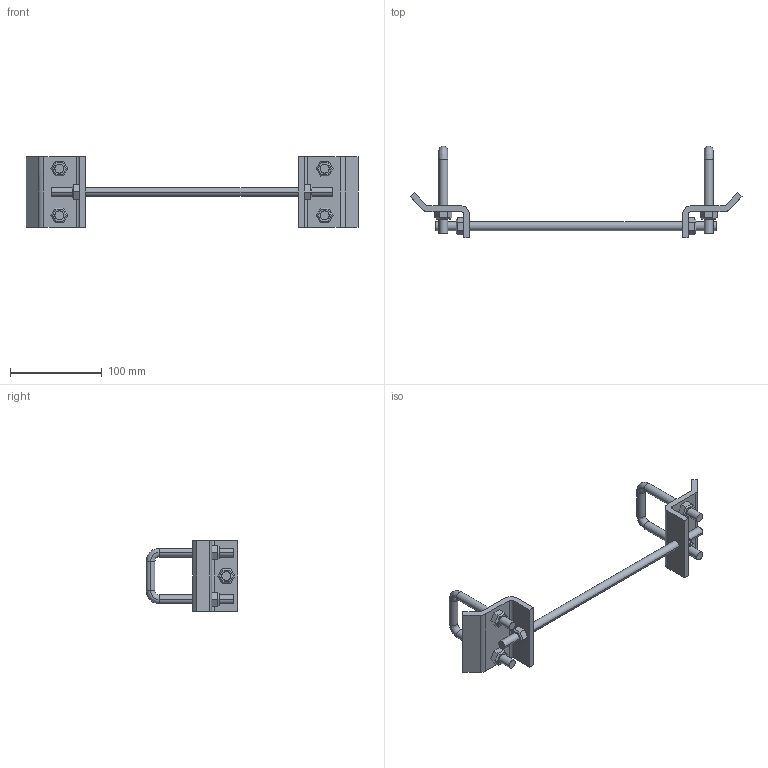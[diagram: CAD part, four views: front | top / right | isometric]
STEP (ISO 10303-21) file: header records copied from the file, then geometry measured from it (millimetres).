
FILE_DESCRIPTION(('TurboCAD Mac Pro'),'Build 980');
FILE_NAME('P2868-12.stp',' ',(''),(''),'ACIS Interop','IMSI','TurboCAD Mac Pro BY IMSI, INCORPORATED');
FILE_SCHEMA(('automotive_design'));
Length unit declared in the file: inch
Products named in the file (11): 1; 2; 3; 4; 5; 6; 7; 8; 9; 10; 11
Bounding box: 361.4 x 100.03 x 76.2 mm (x, y, z)
Volume: 148983.9 mm3; surface area: 62008.7 mm2
Topology: 11 solids, 11 shells, 176 faces, 410 edges, 256 vertices
Faces by surface type: plane 110, bspline 40, cylinder 26
Entity records: 9100 total; most frequent: CARTESIAN_POINT 1837, ORIENTED_EDGE 820, DIRECTION 692, STYLED_ITEM 541, PRESENTATION_STYLE_ASSIGNMENT 541, COLOUR_RGB 541, EDGE_CURVE 410, CURVE_STYLE 354
